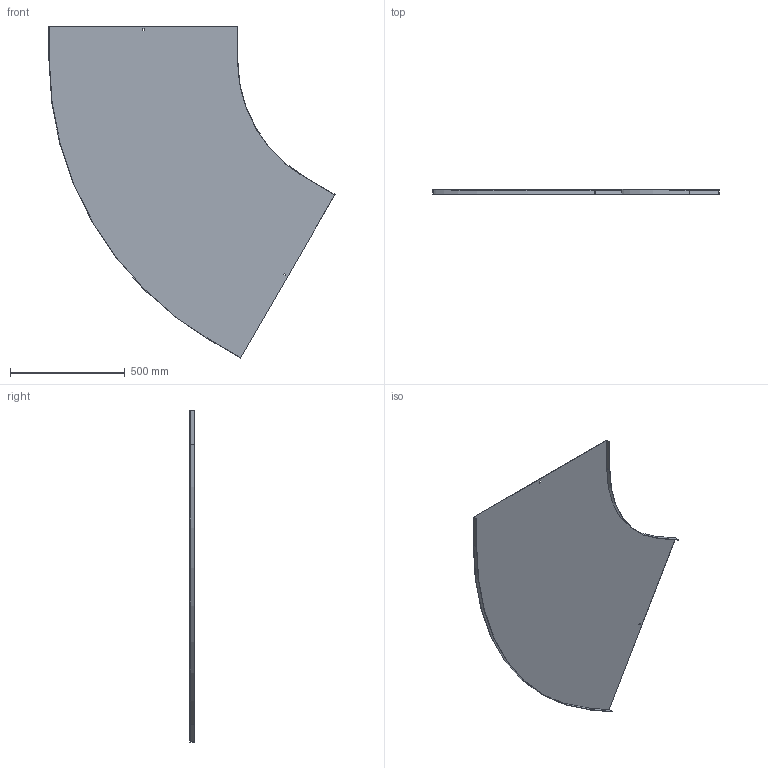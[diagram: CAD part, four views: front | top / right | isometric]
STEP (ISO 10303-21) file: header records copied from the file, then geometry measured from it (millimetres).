
FILE_DESCRIPTION (( 'STEP AP214' ), '1' );
FILE_NAME ('13N6P800.step', '2025-02-21T13:36:20', ( '' ), ( '' ), 'SwSTEP 2.0', 'SolidWorks 2023', '' );
FILE_SCHEMA (( 'AUTOMOTIVE_DESIGN' ));
Length unit declared in the file: millimetre
Products named in the file (1): 13N6P800
Bounding box: 1247.15 x 20 x 1447.39 mm (x, y, z)
Volume: 1737709.3 mm3; surface area: 2323660.4 mm2
Topology: 1 solids, 1 shells, 26 faces, 72 edges, 48 vertices
Faces by surface type: plane 22, cylinder 4
Entity records: 855 total; most frequent: CARTESIAN_POINT 147, ORIENTED_EDGE 144, DIRECTION 134, EDGE_CURVE 72, VECTOR 64, LINE 64, VERTEX_POINT 48, AXIS2_PLACEMENT_3D 35
